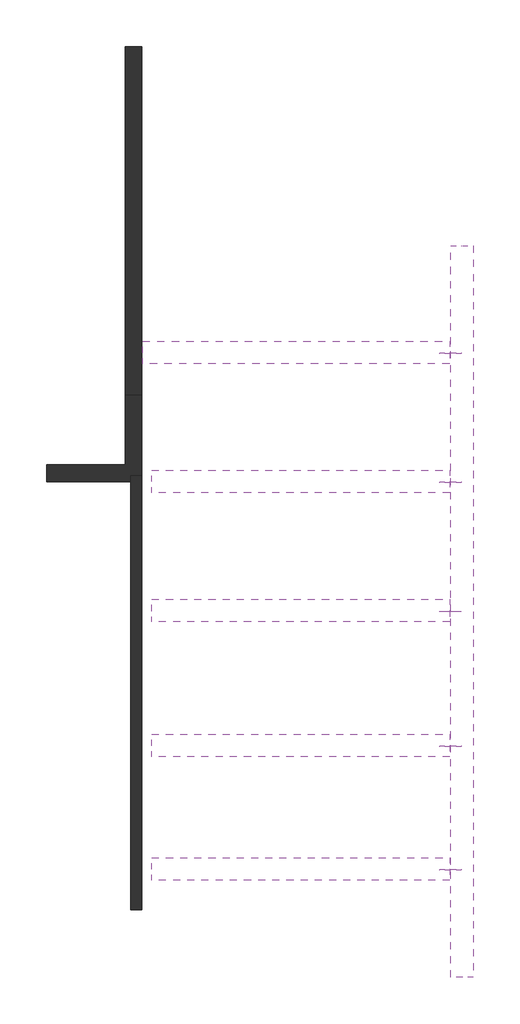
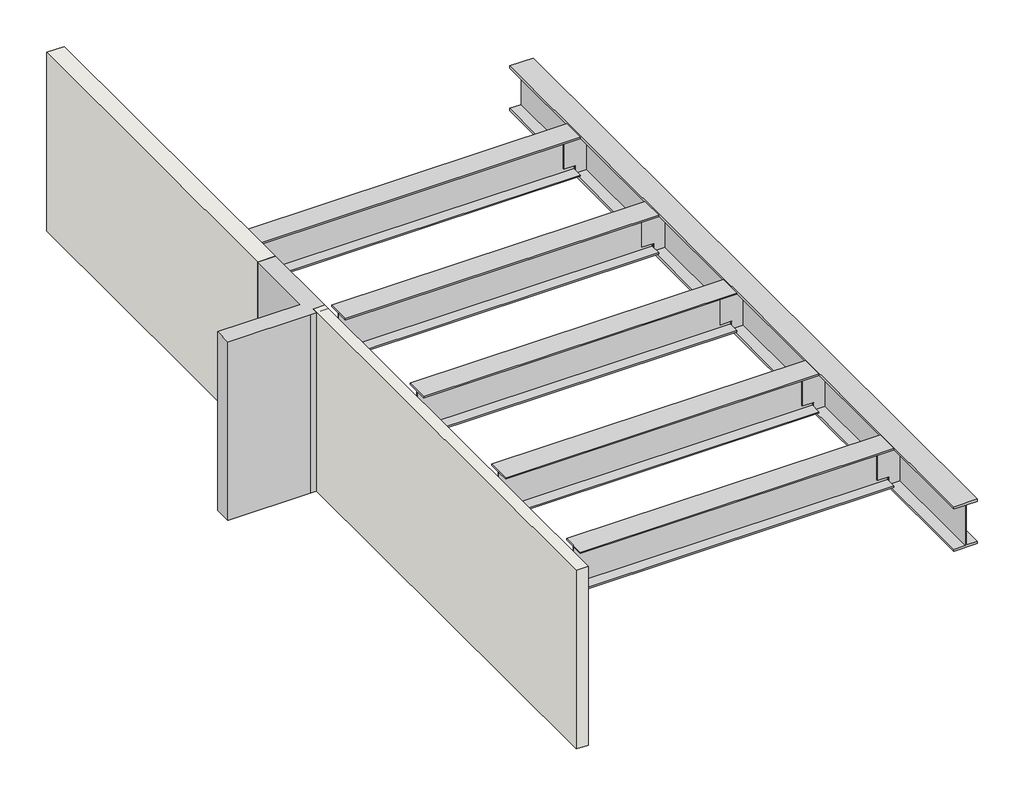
# One storey, incomplete: 6 beams, 5 fasteners, 2 walls, 1 column.
"""IFC4 building model written with IfcOpenShell, lengths in millimetres."""

from ifc_helpers import new_model, si_unit, origin, origin_with_axes, place, context, project, spatial, polyline, outline, extrude, transform, mapped, element, save
from components import gl2_gl2_800x400x20x40_617c4abd, gl2_gl4_600x300x14x25_b6e8a6bf, gl2_gl4_600x300x14x25_a68726c0, ybz16_ybz16_aec5dbda, fastener_4c0c14ea, fastener_a57e30c7, fastener_945d20c3, fastener_0a237c3a, fastener_dc46d4dd

model = new_model("IFC4")

# Units and contexts
model_context = context("Model", 3, world=origin())
ifc_project = project(units=[si_unit("LENGTHUNIT", "METRE", prefix="MILLI")], contexts=[model_context])

# Site, building, storey
site = spatial("IfcSite", under=ifc_project)
building = spatial("IfcBuilding", under=site)
storey = spatial("IfcBuildingStorey", under=building, Name="标高 1", Elevation=0.0)

# Beams
placement = place(None, origin())
gl2_gl2_800x400x20x40_shape = gl2_gl2_800x400x20x40_617c4abd(model_context)
element("IfcBeam", 1, ObjectType="GL2 : GL2(800x400x20x40)", at=placement, inside=storey, context=model_context, shape_type="MappedRepresentation", body=[
    mapped(gl2_gl2_800x400x20x40_shape, transform((-489.5250948, -1596.6501578, 2680.0), x_axis=(0.0, -1.0, 0.0), y_axis=(1.0, 0.0, 0.0), z_axis=(0.0, 0.0, 1.0))),
])
gl2_gl4_600x300x14x25_shape = gl2_gl4_600x300x14x25_b6e8a6bf(model_context)
element("IfcBeam", 2, ObjectType="GL2 : GL4(600x300x14x25)", at=placement, inside=storey, context=model_context, shape_type="MappedRepresentation", body=[
    mapped(gl2_gl4_600x300x14x25_shape, transform((-3362.4464735, -1579.6516809, 2730.0), x_axis=(1.0, 0.0, 0.0), y_axis=(0.0, 1.0, 0.0), z_axis=(0.0, 0.0, 1.0))),
])
element("IfcBeam", 3, ObjectType="GL2 : GL4(600x300x14x25)", at=placement, inside=storey, context=model_context, shape_type="MappedRepresentation", body=[
    mapped(gl2_gl4_600x300x14x25_shape, transform((-3362.4464735, -3979.6516809, 2730.0), x_axis=(1.0, 0.0, 0.0), y_axis=(0.0, 1.0, 0.0), z_axis=(0.0, 0.0, 1.0))),
])
element("IfcBeam", 4, ObjectType="GL2 : GL4(600x300x14x25)", at=placement, inside=storey, context=model_context, shape_type="MappedRepresentation", body=[
    mapped(gl2_gl4_600x300x14x25_shape, transform((-3362.4464735, -6179.6516809, 2730.0), x_axis=(1.0, 0.0, 0.0), y_axis=(0.0, 1.0, 0.0), z_axis=(0.0, 0.0, 1.0))),
])
element("IfcBeam", 5, ObjectType="GL2 : GL4(600x300x14x25)", at=placement, inside=storey, context=model_context, shape_type="MappedRepresentation", body=[
    mapped(gl2_gl4_600x300x14x25_shape, transform((-3362.4464735, 720.3483191, 2730.0), x_axis=(1.0, 0.0, 0.0), y_axis=(0.0, 1.0, 0.0), z_axis=(0.0, 0.0, 1.0))),
])
gl2_gl4_600x300x14x25_2_shape = gl2_gl4_600x300x14x25_a68726c0(model_context)
element("IfcBeam", 6, ObjectType="GL2 : GL4(600x300x14x25)", at=placement, inside=storey, context=model_context, shape_type="MappedRepresentation", body=[
    mapped(gl2_gl4_600x300x14x25_2_shape, transform((-3444.3751356, 3020.3483191, 2730.0), x_axis=(1.0, 0.0, 0.0), y_axis=(0.0, 1.0, 0.0), z_axis=(0.0, 0.0, 1.0))),
])

# Column
ybz16_ybz16_shape = ybz16_ybz16_aec5dbda(model_context)
element("IfcColumn", 7, ObjectType="YBZ16 : YBZ16", at=placement, inside=storey, context=model_context, shape_type="MappedRepresentation", body=[
    mapped(ybz16_ybz16_shape, transform((-6189.5250944, 720.3483192, 0.0), x_axis=(1.0, 0.0, 0.0), y_axis=(0.0, 1.0, 0.0), z_axis=(0.0, 0.0, 1.0))),
])

# Fasteners
fastener_shape = fastener_4c0c14ea(model_context)
element("IfcFastener", 8, ObjectType="主梁与次梁铰接节点1 : 主梁与次梁铰接节点1", at=placement, inside=storey, context=model_context, shape_type="MappedRepresentation", body=[
    mapped(fastener_shape, transform((0.0, 0.0, 0.0), x_axis=(1.0, 0.0, 0.0), y_axis=(0.0, 1.0, 0.0), z_axis=(0.0, 0.0, 1.0))),
])
fastener_2_shape = fastener_a57e30c7(model_context)
element("IfcFastener", 9, ObjectType="主梁与次梁铰接节点2 : 主梁与次梁铰接节点1", at=placement, inside=storey, context=model_context, shape_type="MappedRepresentation", body=[
    mapped(fastener_2_shape, transform((0.0, 0.0, 0.0), x_axis=(1.0, 0.0, 0.0), y_axis=(0.0, 1.0, 0.0), z_axis=(0.0, 0.0, 1.0))),
])
fastener_3_shape = fastener_945d20c3(model_context)
element("IfcFastener", 10, ObjectType="主梁与次梁铰接节点3 : 主梁与次梁铰接节点1", at=placement, inside=storey, context=model_context, shape_type="MappedRepresentation", body=[
    mapped(fastener_3_shape, transform((0.0, 0.0, 0.0), x_axis=(1.0, 0.0, 0.0), y_axis=(0.0, 1.0, 0.0), z_axis=(0.0, 0.0, 1.0))),
])
fastener_4_shape = fastener_0a237c3a(model_context)
element("IfcFastener", 11, ObjectType="主梁与次梁铰接节点4 : 主梁与次梁铰接节点1", at=placement, inside=storey, context=model_context, shape_type="MappedRepresentation", body=[
    mapped(fastener_4_shape, transform((0.0, 0.0, 0.0), x_axis=(1.0, 0.0, 0.0), y_axis=(0.0, 1.0, 0.0), z_axis=(0.0, 0.0, 1.0))),
])
fastener_5_shape = fastener_dc46d4dd(model_context)
element("IfcFastener", 12, ObjectType="主梁与次梁铰接节点5 : 主梁与次梁铰接节点1", at=placement, inside=storey, context=model_context, shape_type="MappedRepresentation", body=[
    mapped(fastener_5_shape, transform((0.0, 0.0, 0.0), x_axis=(1.0, 0.0, 0.0), y_axis=(0.0, 1.0, 0.0), z_axis=(0.0, 0.0, 1.0))),
])

# Walls
element("IfcWall", 13, ObjectType="S-WQ1-300", at=placement, inside=storey, context=model_context, shape_type="SweptSolid", body=[
    extrude(outline(polyline([(-6489.5250944, 2270.3483191), (-6489.5250944, 8470.3483194), (-6189.5250944, 8470.3483194), (-6189.5250944, 2270.3483191), (-6489.5250944, 2270.3483191)])), origin_with_axes(), (0.0, 0.0, 1.0), 3200.0),
])
element("IfcWall", 14, ObjectType="J-蒸压加气砼砌块45墙-200", at=placement, inside=storey, context=model_context, shape_type="SweptSolid", body=[
    extrude(outline(polyline([(-6389.5250944, -6903.3049068), (-6389.5250944, 820.3483194), (-6189.5250944, 820.3483194), (-6189.5250944, -6903.3049068), (-6389.5250944, -6903.3049068)])), origin_with_axes(), (0.0, 0.0, 1.0), 3200.0),
])

save(model, "model.ifc")
